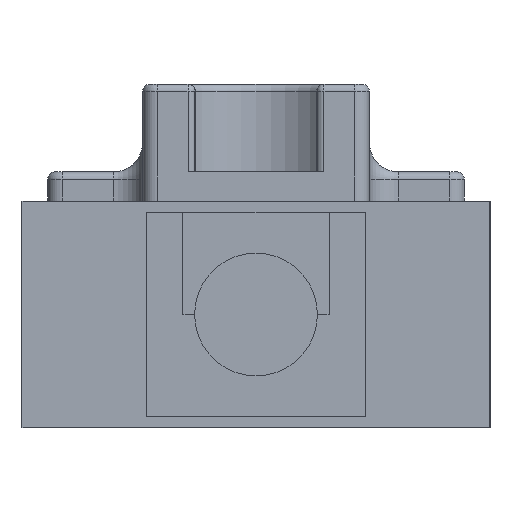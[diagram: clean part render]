
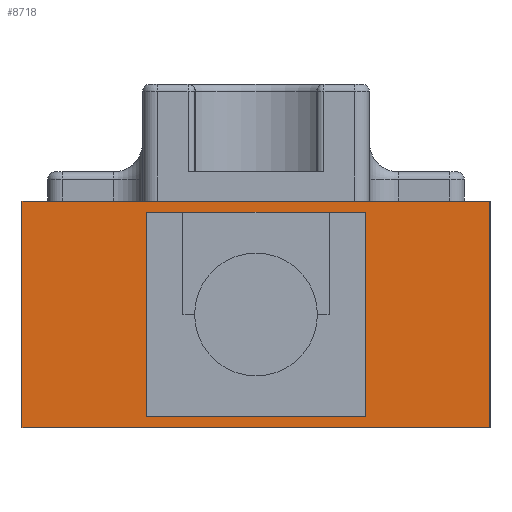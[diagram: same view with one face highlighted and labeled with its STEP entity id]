
A CAD part, front view. The second image highlights one B-rep face of the part: STEP entity #8718.
In plain terms, the highlighted planar face has unit normal (0, -1, 0).
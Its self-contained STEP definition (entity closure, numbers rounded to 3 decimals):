
#77 = VECTOR ( 'NONE', #3890, 1000. ) ;
#228 = ORIENTED_EDGE ( 'NONE', *, *, #1570, .F. ) ;
#368 = VECTOR ( 'NONE', #7153, 1000. ) ;
#384 = VERTEX_POINT ( 'NONE', #1785 ) ;
#435 = LINE ( 'NONE', #6131, #4986 ) ;
#617 = EDGE_CURVE ( 'NONE', #3492, #4065, #1440, .T. ) ;
#814 = DIRECTION ( 'NONE',  ( 1., 0., 0. ) ) ;
#865 = CARTESIAN_POINT ( 'NONE',  ( -7., -199.25, -6.25 ) ) ;
#959 = EDGE_CURVE ( 'NONE', #3794, #8284, #5268, .T. ) ;
#963 = ORIENTED_EDGE ( 'NONE', *, *, #2433, .F. ) ;
#1440 = LINE ( 'NONE', #7189, #6611 ) ;
#1484 = VERTEX_POINT ( 'NONE', #3439 ) ;
#1514 = ORIENTED_EDGE ( 'NONE', *, *, #3329, .F. ) ;
#1537 = CARTESIAN_POINT ( 'NONE',  ( 16., -199.25, 7.75 ) ) ;
#1570 = EDGE_CURVE ( 'NONE', #8284, #2051, #5717, .T. ) ;
#1761 = CARTESIAN_POINT ( 'NONE',  ( -16., -199.25, 7.75 ) ) ;
#1785 = CARTESIAN_POINT ( 'NONE',  ( -7., -199.25, 6.25 ) ) ;
#2051 = VERTEX_POINT ( 'NONE', #2212 ) ;
#2052 = EDGE_LOOP ( 'NONE', ( #7158, #1514, #7026, #6432 ) ) ;
#2212 = CARTESIAN_POINT ( 'NONE',  ( 7., -199.25, 6.25 ) ) ;
#2433 = EDGE_CURVE ( 'NONE', #2051, #384, #435, .T. ) ;
#2775 = PLANE ( 'NONE',  #7248 ) ;
#2817 = ORIENTED_EDGE ( 'NONE', *, *, #959, .F. ) ;
#3329 = EDGE_CURVE ( 'NONE', #4065, #4461, #6407, .T. ) ;
#3350 = DIRECTION ( 'NONE',  ( -1., 0., 0. ) ) ;
#3375 = LINE ( 'NONE', #6788, #4393 ) ;
#3430 = VECTOR ( 'NONE', #5812, 1000. ) ;
#3439 = CARTESIAN_POINT ( 'NONE',  ( -16., -199.25, -7.75 ) ) ;
#3492 = VERTEX_POINT ( 'NONE', #1761 ) ;
#3509 = FACE_BOUND ( 'NONE', #4651, .T. ) ;
#3547 = CARTESIAN_POINT ( 'NONE',  ( 16., -199.25, 7.75 ) ) ;
#3565 = DIRECTION ( 'NONE',  ( 1., 0., 0. ) ) ;
#3626 = CARTESIAN_POINT ( 'NONE',  ( 7., -199.25, 6.25 ) ) ;
#3727 = DIRECTION ( 'NONE',  ( 0., 0., -1. ) ) ;
#3729 = LINE ( 'NONE', #8740, #3430 ) ;
#3794 = VERTEX_POINT ( 'NONE', #865 ) ;
#3890 = DIRECTION ( 'NONE',  ( 0., 0., 1. ) ) ;
#4065 = VERTEX_POINT ( 'NONE', #3547 ) ;
#4174 = ORIENTED_EDGE ( 'NONE', *, *, #7263, .F. ) ;
#4393 = VECTOR ( 'NONE', #6033, 1000. ) ;
#4397 = CARTESIAN_POINT ( 'NONE',  ( 7., -199.25, -6.25 ) ) ;
#4461 = VERTEX_POINT ( 'NONE', #5408 ) ;
#4651 = EDGE_LOOP ( 'NONE', ( #4174, #963, #228, #2817 ) ) ;
#4986 = VECTOR ( 'NONE', #3350, 1000. ) ;
#5266 = EDGE_CURVE ( 'NONE', #3492, #1484, #7825, .T. ) ;
#5268 = LINE ( 'NONE', #8111, #6013 ) ;
#5408 = CARTESIAN_POINT ( 'NONE',  ( 16., -199.25, -7.75 ) ) ;
#5600 = CARTESIAN_POINT ( 'NONE',  ( -16., -199.25, 7.75 ) ) ;
#5643 = DIRECTION ( 'NONE',  ( 0., 1., 0. ) ) ;
#5717 = LINE ( 'NONE', #3626, #77 ) ;
#5812 = DIRECTION ( 'NONE',  ( 1., 0., 0. ) ) ;
#6013 = VECTOR ( 'NONE', #814, 1000. ) ;
#6033 = DIRECTION ( 'NONE',  ( 0., 0., -1. ) ) ;
#6131 = CARTESIAN_POINT ( 'NONE',  ( 7., -199.25, 6.25 ) ) ;
#6257 = VECTOR ( 'NONE', #3727, 1000. ) ;
#6340 = EDGE_CURVE ( 'NONE', #1484, #4461, #3729, .T. ) ;
#6407 = LINE ( 'NONE', #1537, #368 ) ;
#6432 = ORIENTED_EDGE ( 'NONE', *, *, #5266, .T. ) ;
#6611 = VECTOR ( 'NONE', #3565, 1000. ) ;
#6788 = CARTESIAN_POINT ( 'NONE',  ( -7., -199.25, -6.25 ) ) ;
#6992 = FACE_OUTER_BOUND ( 'NONE', #2052, .T. ) ;
#7026 = ORIENTED_EDGE ( 'NONE', *, *, #617, .F. ) ;
#7153 = DIRECTION ( 'NONE',  ( 0., 0., -1. ) ) ;
#7158 = ORIENTED_EDGE ( 'NONE', *, *, #6340, .T. ) ;
#7189 = CARTESIAN_POINT ( 'NONE',  ( -16., -199.25, 7.75 ) ) ;
#7248 = AXIS2_PLACEMENT_3D ( 'NONE', #5600, #5643, #8475 ) ;
#7263 = EDGE_CURVE ( 'NONE', #384, #3794, #3375, .T. ) ;
#7269 = CARTESIAN_POINT ( 'NONE',  ( -16., -199.25, 7.75 ) ) ;
#7825 = LINE ( 'NONE', #7269, #6257 ) ;
#8111 = CARTESIAN_POINT ( 'NONE',  ( -7., -199.25, -6.25 ) ) ;
#8284 = VERTEX_POINT ( 'NONE', #4397 ) ;
#8475 = DIRECTION ( 'NONE',  ( 0., 0., 1. ) ) ;
#8718 = ADVANCED_FACE ( 'NONE', ( #3509, #6992 ), #2775, .F. ) ;
#8740 = CARTESIAN_POINT ( 'NONE',  ( -16., -199.25, -7.75 ) ) ;
